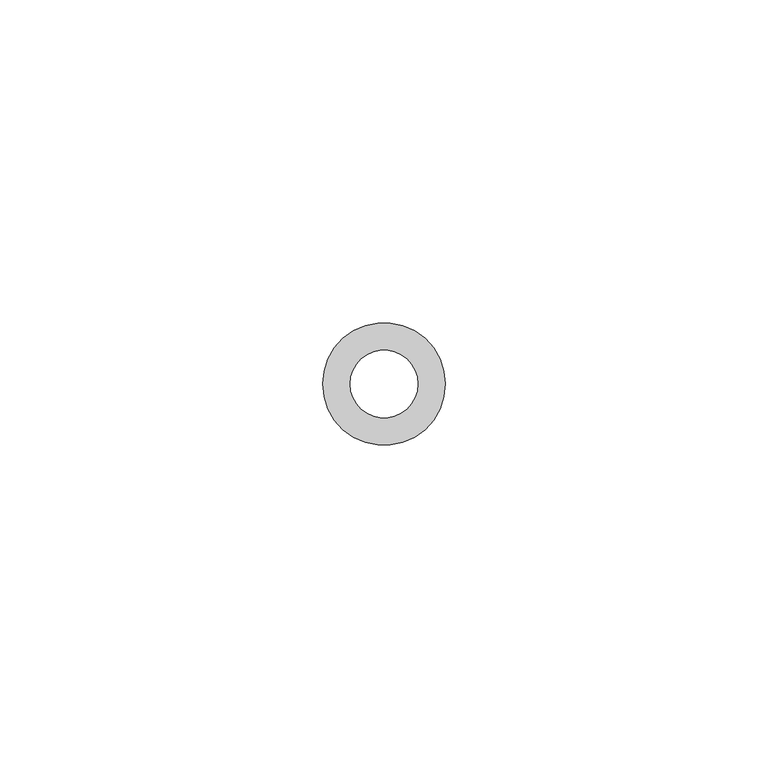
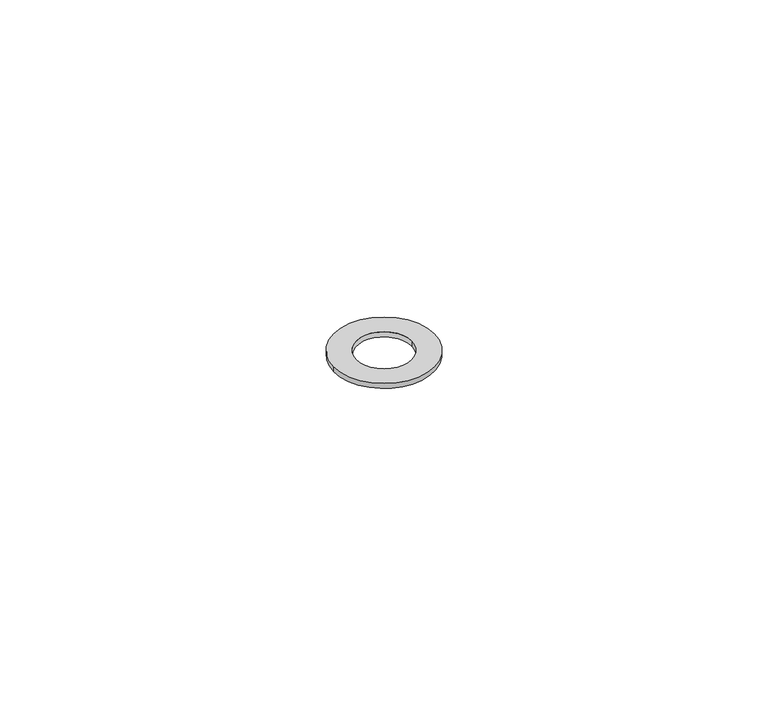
"""IFC4 building model written with IfcOpenShell, lengths in millimetres: cable carrier fitting geometry, x. Arruela Lisa Galvanizada Eletrica : Arruela lisa galvanizada Eletrica."""

from ifc_helpers import new_model, si_unit, point, origin, origin_with_axes, origin_2d, place, context, project, spatial, circle_curve, trimmed, segment, composite_curve, outline, extrude, source, transform, mapped, element, save


def cable_carrier_fitting_73e02768(model_context):
    return source(origin(), model_context, "Body", "SweptSolid", [
        extrude(outline(composite_curve([segment(trimmed(circle_curve(origin_2d(), 9.5), [point((-9.5, 0.0))], [point((9.5, 0.0))], False, "CARTESIAN"), True, "CONTINUOUS"), segment(trimmed(circle_curve(origin_2d(), 9.5), [point((9.5, 0.0))], [point((-9.5, 0.0))], False, "CARTESIAN"), True, "CONTINUOUS")], self_intersect=False), holes=[composite_curve([segment(trimmed(circle_curve(origin_2d(), 5.25), [point((-5.25, 0.0))], [point((5.25, 0.0))], True, "CARTESIAN"), True, "CONTINUOUS"), segment(trimmed(circle_curve(origin_2d(), 5.25), [point((5.25, 0.0))], [point((-5.25, 0.0))], True, "CARTESIAN"), True, "CONTINUOUS")], self_intersect=False)]), origin_with_axes(), (0.0, 0.0, 1.0), 1.0),
    ])


if __name__ == "__main__":
    model = new_model("IFC4")
    model_context = context("Model", 3, world=origin())
    ifc_project = project(units=[si_unit("LENGTHUNIT", "METRE", prefix="MILLI")], contexts=[model_context])
    site = spatial("IfcSite", under=ifc_project)
    building = spatial("IfcBuilding", under=site)
    placement = place(None, origin())
    cable_carrier_fitting_shape = cable_carrier_fitting_73e02768(model_context)
    element("IfcCableCarrierFitting", 1, ObjectType="x. Arruela Lisa Galvanizada Eletrica : Arruela lisa galvanizada Eletrica", at=placement, inside=building, context=model_context, shape_type="MappedRepresentation", body=[
        mapped(cable_carrier_fitting_shape, transform((0.0, 0.0, 0.0), x_axis=(1.0, 0.0, 0.0), y_axis=(0.0, 1.0, 0.0), z_axis=(0.0, 0.0, 1.0))),
    ])
    save(model, "model.ifc")
